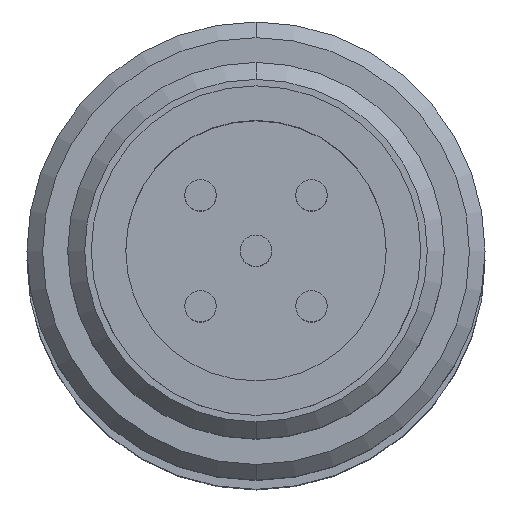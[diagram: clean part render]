
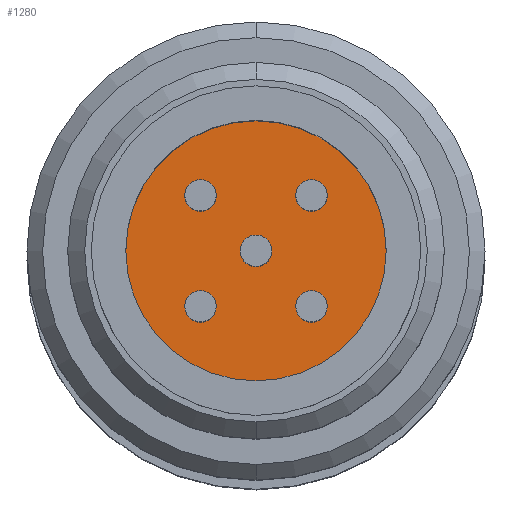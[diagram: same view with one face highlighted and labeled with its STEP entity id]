
A CAD part, top view. The second image highlights one B-rep face of the part: STEP entity #1280.
In plain terms, the highlighted planar face has unit normal (0, 0, 1).
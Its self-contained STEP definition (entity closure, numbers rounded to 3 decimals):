
#154=CARTESIAN_POINT('',(-1.768,1.768,-8.9));
#155=DIRECTION('',(0.,0.,-1.));
#156=DIRECTION('',(1.,0.,0.));
#157=AXIS2_PLACEMENT_3D('',#154,#155,#156);
#162=CARTESIAN_POINT('',(-1.768,1.768,-8.9));
#163=DIRECTION('',(0.,0.,-1.));
#164=DIRECTION('',(-1.,0.,0.));
#165=AXIS2_PLACEMENT_3D('',#162,#163,#164);
#170=CARTESIAN_POINT('',(1.768,1.768,-8.9));
#171=DIRECTION('',(0.,0.,-1.));
#172=DIRECTION('',(1.,0.,0.));
#173=AXIS2_PLACEMENT_3D('',#170,#171,#172);
#178=CARTESIAN_POINT('',(1.768,1.768,-8.9));
#179=DIRECTION('',(0.,0.,-1.));
#180=DIRECTION('',(-1.,0.,0.));
#181=AXIS2_PLACEMENT_3D('',#178,#179,#180);
#186=CARTESIAN_POINT('',(1.768,-1.768,-8.9));
#187=DIRECTION('',(0.,0.,-1.));
#188=DIRECTION('',(1.,0.,0.));
#189=AXIS2_PLACEMENT_3D('',#186,#187,#188);
#194=CARTESIAN_POINT('',(1.768,-1.768,-8.9));
#195=DIRECTION('',(0.,0.,-1.));
#196=DIRECTION('',(-1.,0.,0.));
#197=AXIS2_PLACEMENT_3D('',#194,#195,#196);
#202=CARTESIAN_POINT('',(-1.768,-1.768,-8.9));
#203=DIRECTION('',(0.,0.,-1.));
#204=DIRECTION('',(1.,0.,0.));
#205=AXIS2_PLACEMENT_3D('',#202,#203,#204);
#210=CARTESIAN_POINT('',(-1.768,-1.768,-8.9));
#211=DIRECTION('',(0.,0.,-1.));
#212=DIRECTION('',(-1.,0.,0.));
#213=AXIS2_PLACEMENT_3D('',#210,#211,#212);
#218=CARTESIAN_POINT('',(0.,0.,-8.9));
#219=DIRECTION('',(0.,0.,1.));
#220=DIRECTION('',(1.,0.,0.));
#221=AXIS2_PLACEMENT_3D('',#218,#219,#220);
#226=CARTESIAN_POINT('',(0.,0.,-8.9));
#227=DIRECTION('',(0.,0.,1.));
#228=DIRECTION('',(-1.,0.,0.));
#229=AXIS2_PLACEMENT_3D('',#226,#227,#228);
#234=CARTESIAN_POINT('',(0.,0.,-8.9));
#235=DIRECTION('',(0.,0.,-1.));
#236=DIRECTION('',(1.,0.,0.));
#237=AXIS2_PLACEMENT_3D('',#234,#235,#236);
#242=CARTESIAN_POINT('',(0.,0.,-8.9));
#243=DIRECTION('',(0.,0.,-1.));
#244=DIRECTION('',(-1.,0.,0.));
#245=AXIS2_PLACEMENT_3D('',#242,#243,#244);
#948=CARTESIAN_POINT('',(-1.268,1.768,-8.9));
#949=CARTESIAN_POINT('',(-2.268,1.768,-8.9));
#950=VERTEX_POINT('',#948);
#951=VERTEX_POINT('',#949);
#952=CARTESIAN_POINT('',(2.268,1.768,-8.9));
#953=CARTESIAN_POINT('',(1.268,1.768,-8.9));
#954=VERTEX_POINT('',#952);
#955=VERTEX_POINT('',#953);
#956=CARTESIAN_POINT('',(2.268,-1.768,-8.9));
#957=CARTESIAN_POINT('',(1.268,-1.768,-8.9));
#958=VERTEX_POINT('',#956);
#959=VERTEX_POINT('',#957);
#960=CARTESIAN_POINT('',(-1.268,-1.768,-8.9));
#961=CARTESIAN_POINT('',(-2.268,-1.768,-8.9));
#962=VERTEX_POINT('',#960);
#963=VERTEX_POINT('',#961);
#964=CARTESIAN_POINT('',(4.15,0.,-8.9));
#965=CARTESIAN_POINT('',(-4.15,0.,-8.9));
#966=VERTEX_POINT('',#964);
#967=VERTEX_POINT('',#965);
#972=CARTESIAN_POINT('',(0.5,0.,-8.9));
#973=CARTESIAN_POINT('',(-0.5,0.,-8.9));
#974=VERTEX_POINT('',#972);
#975=VERTEX_POINT('',#973);
#1241=CARTESIAN_POINT('',(0.,0.,-8.9));
#1242=DIRECTION('',(0.,0.,1.));
#1243=DIRECTION('',(1.,0.,0.));
#1244=AXIS2_PLACEMENT_3D('',#1241,#1242,#1243);
#1245=PLANE('',#1244);
#1246=ORIENTED_EDGE('',*,*,#1206,.F.);
#1247=ORIENTED_EDGE('',*,*,#1229,.F.);
#1248=EDGE_LOOP('',(#1246,#1247));
#1249=FACE_OUTER_BOUND('',#1248,.F.);
#1251=ORIENTED_EDGE('',*,*,#1250,.F.);
#1253=ORIENTED_EDGE('',*,*,#1252,.F.);
#1254=EDGE_LOOP('',(#1251,#1253));
#1255=FACE_BOUND('',#1254,.F.);
#1257=ORIENTED_EDGE('',*,*,#1256,.F.);
#1259=ORIENTED_EDGE('',*,*,#1258,.F.);
#1260=EDGE_LOOP('',(#1257,#1259));
#1261=FACE_BOUND('',#1260,.F.);
#1263=ORIENTED_EDGE('',*,*,#1262,.F.);
#1265=ORIENTED_EDGE('',*,*,#1264,.F.);
#1266=EDGE_LOOP('',(#1263,#1265));
#1267=FACE_BOUND('',#1266,.F.);
#1269=ORIENTED_EDGE('',*,*,#1268,.F.);
#1271=ORIENTED_EDGE('',*,*,#1270,.F.);
#1272=EDGE_LOOP('',(#1269,#1271));
#1273=FACE_BOUND('',#1272,.F.);
#1275=ORIENTED_EDGE('',*,*,#1274,.F.);
#1277=ORIENTED_EDGE('',*,*,#1276,.F.);
#1278=EDGE_LOOP('',(#1275,#1277));
#1279=FACE_BOUND('',#1278,.F.);
#1280=ADVANCED_FACE('',(#1249,#1255,#1261,#1267,#1273,#1279),#1245,.T.);
#158=CIRCLE('',#157,0.5);
#166=CIRCLE('',#165,0.5);
#174=CIRCLE('',#173,0.5);
#182=CIRCLE('',#181,0.5);
#190=CIRCLE('',#189,0.5);
#198=CIRCLE('',#197,0.5);
#206=CIRCLE('',#205,0.5);
#214=CIRCLE('',#213,0.5);
#222=CIRCLE('',#221,4.15);
#230=CIRCLE('',#229,4.15);
#238=CIRCLE('',#237,0.5);
#246=CIRCLE('',#245,0.5);
#1206=EDGE_CURVE('',#966,#967,#222,.T.);
#1229=EDGE_CURVE('',#967,#966,#230,.T.);
#1250=EDGE_CURVE('',#954,#955,#174,.T.);
#1252=EDGE_CURVE('',#955,#954,#182,.T.);
#1256=EDGE_CURVE('',#958,#959,#190,.T.);
#1258=EDGE_CURVE('',#959,#958,#198,.T.);
#1262=EDGE_CURVE('',#962,#963,#206,.T.);
#1264=EDGE_CURVE('',#963,#962,#214,.T.);
#1268=EDGE_CURVE('',#950,#951,#158,.T.);
#1270=EDGE_CURVE('',#951,#950,#166,.T.);
#1274=EDGE_CURVE('',#974,#975,#238,.T.);
#1276=EDGE_CURVE('',#975,#974,#246,.T.);
